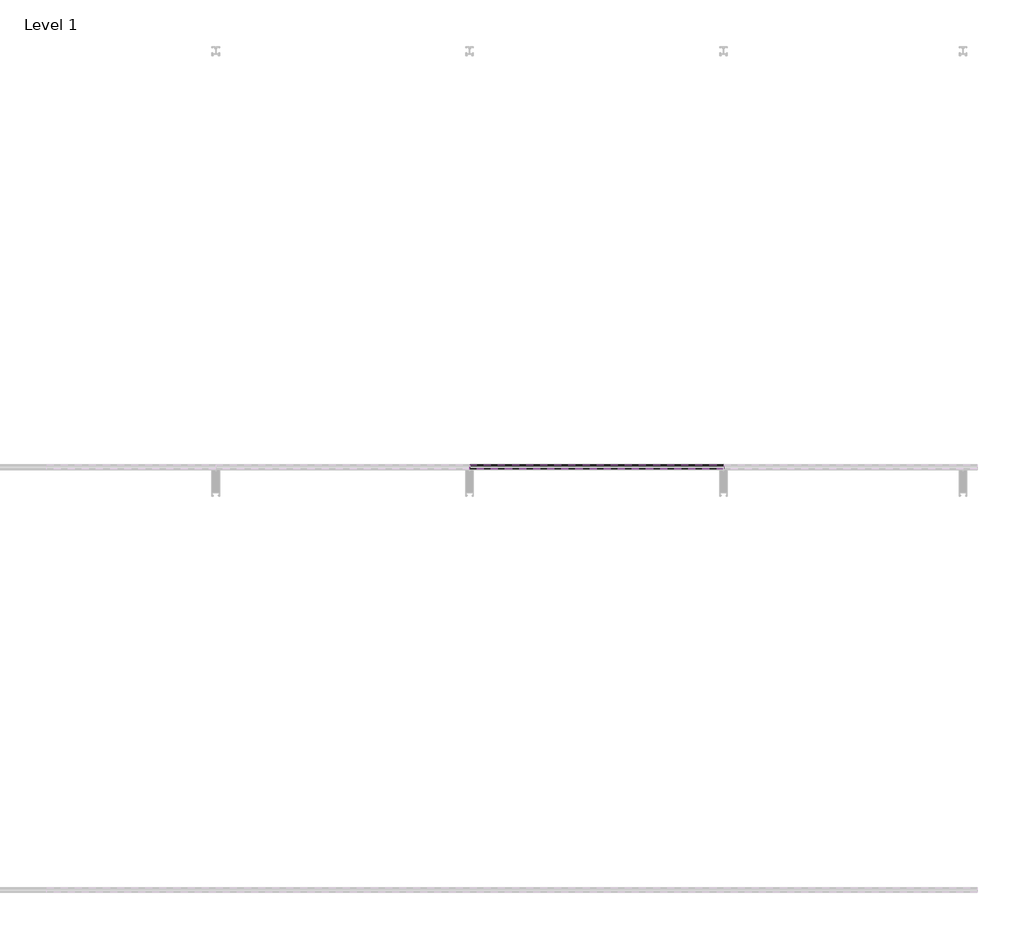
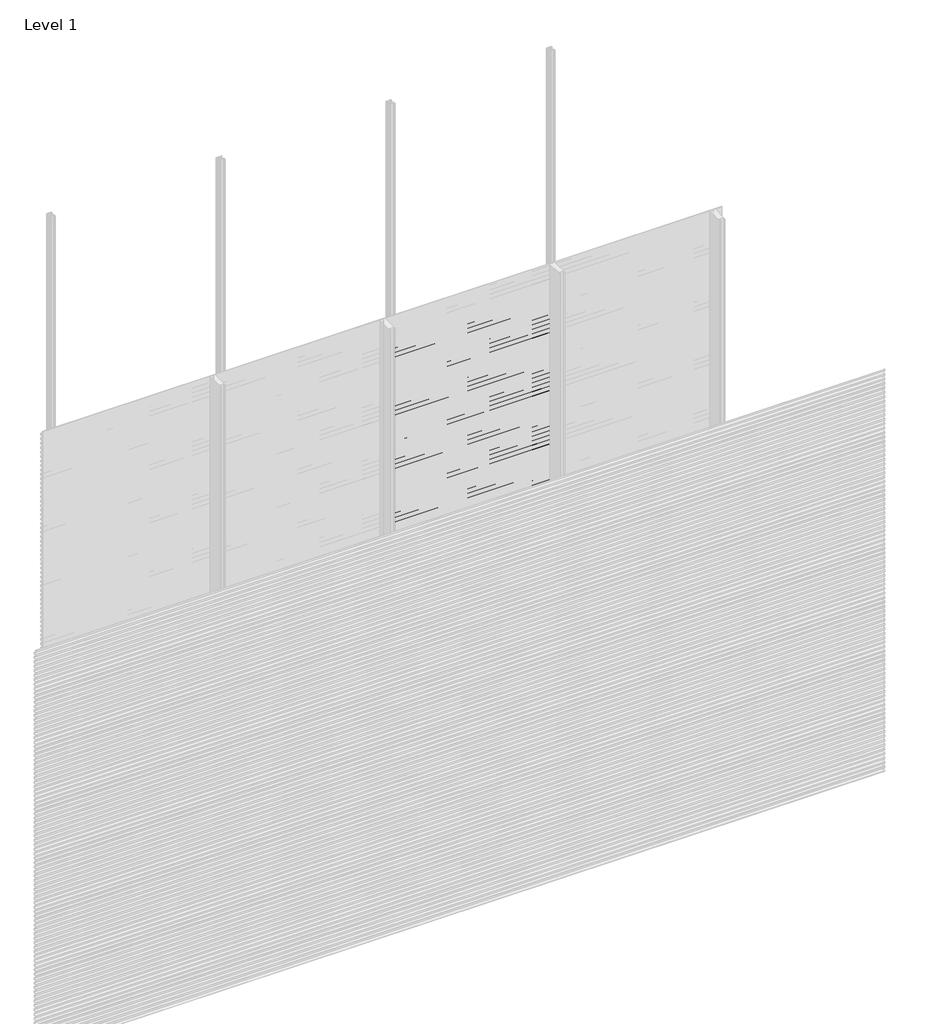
# One storey, part 16 of 77: 72 proxies.
"""IFC4 building model written with IfcOpenShell, lengths in millimetres."""

from ifc_helpers import new_model, si_unit, frame, origin, place, context, project, spatial, polyline, outline, extrude, element, save

model = new_model("IFC4")

# Units and contexts
model_context = context("Model", 3, world=origin())
ifc_project = project(units=[si_unit("LENGTHUNIT", "METRE", prefix="MILLI")], contexts=[model_context])

# Site, building, storey
site = spatial("IfcSite", under=ifc_project)
building = spatial("IfcBuilding", under=site)
storey = spatial("IfcBuildingStorey", under=building, Name="Level 1", Elevation=0.0)

# Proxies
placement = place(None, origin())
element("IfcBuildingElementProxy", 1, Name="Wall Sweeps", at=placement, inside=storey, context=model_context, shape_type="SweptSolid", body=[
    extrude(outline(polyline([(-47978.6, 2806.0359887), (-47998.0, 2817.2366691), (-47998.0, 2830.5), (-47997.0, 2830.5), (-47997.0, 2817.8191057), (-47977.6, 2806.6185105), (-47977.6, 2793.0185105), (-47978.6, 2794.5953129), (-47978.6, 2800.4032062), (-47995.9773817, 2792.3), (-47996.4, 2793.2063078), (-47978.6, 2801.5065841), (-47978.6, 2806.0359887)])), frame((3600.0, 0.0, 0.0), z_axis=(1.0, 0.0, 0.0), x_axis=(0.0, 1.0, 0.0)), (0.0, 0.0, 1.0), 1200.0),
])
element("IfcBuildingElementProxy", 2, Name="Wall Sweeps", at=placement, inside=storey, context=model_context, shape_type="SweptSolid", body=[
    extrude(outline(polyline([(-47978.6, 2772.7359887), (-47998.0, 2783.9366691), (-47998.0, 2797.2), (-47997.0, 2797.2), (-47997.0, 2784.5191057), (-47977.6, 2773.3185105), (-47977.6, 2759.7185105), (-47978.6, 2761.2953129), (-47978.6, 2767.1032062), (-47995.9773817, 2759.0), (-47996.4, 2759.9063078), (-47978.6, 2768.2065841), (-47978.6, 2772.7359887)])), frame((3600.0, 0.0, 0.0), z_axis=(1.0, 0.0, 0.0), x_axis=(0.0, 1.0, 0.0)), (0.0, 0.0, 1.0), 1200.0),
])
element("IfcBuildingElementProxy", 3, Name="Wall Sweeps", at=placement, inside=storey, context=model_context, shape_type="SweptSolid", body=[
    extrude(outline(polyline([(-47978.6, 2739.4359887), (-47998.0, 2750.6366691), (-47998.0, 2763.9), (-47997.0, 2763.9), (-47997.0, 2751.2191057), (-47977.6, 2740.0185105), (-47977.6, 2726.4185105), (-47978.6, 2727.9953129), (-47978.6, 2733.8032062), (-47995.9773817, 2725.7), (-47996.4, 2726.6063078), (-47978.6, 2734.9065841), (-47978.6, 2739.4359887)])), frame((3600.0, 0.0, 0.0), z_axis=(1.0, 0.0, 0.0), x_axis=(0.0, 1.0, 0.0)), (0.0, 0.0, 1.0), 1200.0),
])
element("IfcBuildingElementProxy", 4, Name="Wall Sweeps", at=placement, inside=storey, context=model_context, shape_type="SweptSolid", body=[
    extrude(outline(polyline([(-47978.6, 2706.1359887), (-47998.0, 2717.3366691), (-47998.0, 2730.6), (-47997.0, 2730.6), (-47997.0, 2717.9191057), (-47977.6, 2706.7185105), (-47977.6, 2693.1185105), (-47978.6, 2694.6953129), (-47978.6, 2700.5032062), (-47995.9773817, 2692.4), (-47996.4, 2693.3063078), (-47978.6, 2701.6065841), (-47978.6, 2706.1359887)])), frame((3600.0, 0.0, 0.0), z_axis=(1.0, 0.0, 0.0), x_axis=(0.0, 1.0, 0.0)), (0.0, 0.0, 1.0), 1200.0),
])
element("IfcBuildingElementProxy", 5, Name="Wall Sweeps", at=placement, inside=storey, context=model_context, shape_type="SweptSolid", body=[
    extrude(outline(polyline([(-47978.6, 2672.8359887), (-47998.0, 2684.0366691), (-47998.0, 2697.3), (-47997.0, 2697.3), (-47997.0, 2684.6191057), (-47977.6, 2673.4185105), (-47977.6, 2659.8185105), (-47978.6, 2661.3953129), (-47978.6, 2667.2032062), (-47995.9773817, 2659.1), (-47996.4, 2660.0063078), (-47978.6, 2668.3065841), (-47978.6, 2672.8359887)])), frame((3600.0, 0.0, 0.0), z_axis=(1.0, 0.0, 0.0), x_axis=(0.0, 1.0, 0.0)), (0.0, 0.0, 1.0), 1200.0),
])
element("IfcBuildingElementProxy", 6, Name="Wall Sweeps", at=placement, inside=storey, context=model_context, shape_type="SweptSolid", body=[
    extrude(outline(polyline([(-47978.6, 2639.5359887), (-47998.0, 2650.7366691), (-47998.0, 2664.0), (-47997.0, 2664.0), (-47997.0, 2651.3191057), (-47977.6, 2640.1185105), (-47977.6, 2626.5185105), (-47978.6, 2628.0953129), (-47978.6, 2633.9032062), (-47995.9773817, 2625.8), (-47996.4, 2626.7063078), (-47978.6, 2635.0065841), (-47978.6, 2639.5359887)])), frame((3600.0, 0.0, 0.0), z_axis=(1.0, 0.0, 0.0), x_axis=(0.0, 1.0, 0.0)), (0.0, 0.0, 1.0), 1200.0),
])
element("IfcBuildingElementProxy", 7, Name="Wall Sweeps", at=placement, inside=storey, context=model_context, shape_type="SweptSolid", body=[
    extrude(outline(polyline([(-47978.6, 2606.2359887), (-47998.0, 2617.4366691), (-47998.0, 2630.7), (-47997.0, 2630.7), (-47997.0, 2618.0191057), (-47977.6, 2606.8185105), (-47977.6, 2593.2185105), (-47978.6, 2594.7953129), (-47978.6, 2600.6032062), (-47995.9773817, 2592.5), (-47996.4, 2593.4063078), (-47978.6, 2601.7065841), (-47978.6, 2606.2359887)])), frame((3600.0, 0.0, 0.0), z_axis=(1.0, 0.0, 0.0), x_axis=(0.0, 1.0, 0.0)), (0.0, 0.0, 1.0), 1200.0),
])
element("IfcBuildingElementProxy", 8, Name="Wall Sweeps", at=placement, inside=storey, context=model_context, shape_type="SweptSolid", body=[
    extrude(outline(polyline([(-47978.6, 2572.9359887), (-47998.0, 2584.1366691), (-47998.0, 2597.4), (-47997.0, 2597.4), (-47997.0, 2584.7191057), (-47977.6, 2573.5185105), (-47977.6, 2559.9185105), (-47978.6, 2561.4953129), (-47978.6, 2567.3032062), (-47995.9773817, 2559.2), (-47996.4, 2560.1063078), (-47978.6, 2568.4065841), (-47978.6, 2572.9359887)])), frame((3600.0, 0.0, 0.0), z_axis=(1.0, 0.0, 0.0), x_axis=(0.0, 1.0, 0.0)), (0.0, 0.0, 1.0), 1200.0),
])
element("IfcBuildingElementProxy", 9, Name="Wall Sweeps", at=placement, inside=storey, context=model_context, shape_type="SweptSolid", body=[
    extrude(outline(polyline([(-47978.6, 2539.6359887), (-47998.0, 2550.8366691), (-47998.0, 2564.1), (-47997.0, 2564.1), (-47997.0, 2551.4191057), (-47977.6, 2540.2185105), (-47977.6, 2526.6185105), (-47978.6, 2528.1953129), (-47978.6, 2534.0032062), (-47995.9773817, 2525.9), (-47996.4, 2526.8063078), (-47978.6, 2535.1065841), (-47978.6, 2539.6359887)])), frame((3600.0, 0.0, 0.0), z_axis=(1.0, 0.0, 0.0), x_axis=(0.0, 1.0, 0.0)), (0.0, 0.0, 1.0), 1200.0),
])
element("IfcBuildingElementProxy", 10, Name="Wall Sweeps", at=placement, inside=storey, context=model_context, shape_type="SweptSolid", body=[
    extrude(outline(polyline([(-47978.6, 2506.3359887), (-47998.0, 2517.5366691), (-47998.0, 2530.8), (-47997.0, 2530.8), (-47997.0, 2518.1191057), (-47977.6, 2506.9185105), (-47977.6, 2493.3185105), (-47978.6, 2494.8953129), (-47978.6, 2500.7032062), (-47995.9773817, 2492.6), (-47996.4, 2493.5063078), (-47978.6, 2501.8065841), (-47978.6, 2506.3359887)])), frame((3600.0, 0.0, 0.0), z_axis=(1.0, 0.0, 0.0), x_axis=(0.0, 1.0, 0.0)), (0.0, 0.0, 1.0), 1200.0),
])
element("IfcBuildingElementProxy", 11, Name="Wall Sweeps", at=placement, inside=storey, context=model_context, shape_type="SweptSolid", body=[
    extrude(outline(polyline([(-47978.6, 2473.0359887), (-47998.0, 2484.2366691), (-47998.0, 2497.5), (-47997.0, 2497.5), (-47997.0, 2484.8191057), (-47977.6, 2473.6185105), (-47977.6, 2460.0185105), (-47978.6, 2461.5953129), (-47978.6, 2467.4032062), (-47995.9773817, 2459.3), (-47996.4, 2460.2063078), (-47978.6, 2468.5065841), (-47978.6, 2473.0359887)])), frame((3600.0, 0.0, 0.0), z_axis=(1.0, 0.0, 0.0), x_axis=(0.0, 1.0, 0.0)), (0.0, 0.0, 1.0), 1200.0),
])
element("IfcBuildingElementProxy", 12, Name="Wall Sweeps", at=placement, inside=storey, context=model_context, shape_type="SweptSolid", body=[
    extrude(outline(polyline([(-47978.6, 2439.7359887), (-47998.0, 2450.9366691), (-47998.0, 2464.2), (-47997.0, 2464.2), (-47997.0, 2451.5191057), (-47977.6, 2440.3185105), (-47977.6, 2426.7185105), (-47978.6, 2428.2953129), (-47978.6, 2434.1032062), (-47995.9773817, 2426.0), (-47996.4, 2426.9063078), (-47978.6, 2435.2065841), (-47978.6, 2439.7359887)])), frame((3600.0, 0.0, 0.0), z_axis=(1.0, 0.0, 0.0), x_axis=(0.0, 1.0, 0.0)), (0.0, 0.0, 1.0), 1200.0),
])
element("IfcBuildingElementProxy", 13, Name="Wall Sweeps", at=placement, inside=storey, context=model_context, shape_type="SweptSolid", body=[
    extrude(outline(polyline([(-47978.6, 2406.4359887), (-47998.0, 2417.6366691), (-47998.0, 2430.9), (-47997.0, 2430.9), (-47997.0, 2418.2191057), (-47977.6, 2407.0185105), (-47977.6, 2393.4185105), (-47978.6, 2394.9953129), (-47978.6, 2400.8032062), (-47995.9773817, 2392.7), (-47996.4, 2393.6063078), (-47978.6, 2401.9065841), (-47978.6, 2406.4359887)])), frame((3600.0, 0.0, 0.0), z_axis=(1.0, 0.0, 0.0), x_axis=(0.0, 1.0, 0.0)), (0.0, 0.0, 1.0), 1200.0),
])
element("IfcBuildingElementProxy", 14, Name="Wall Sweeps", at=placement, inside=storey, context=model_context, shape_type="SweptSolid", body=[
    extrude(outline(polyline([(-47978.6, 2373.1359887), (-47998.0, 2384.3366691), (-47998.0, 2397.6), (-47997.0, 2397.6), (-47997.0, 2384.9191057), (-47977.6, 2373.7185105), (-47977.6, 2360.1185105), (-47978.6, 2361.6953129), (-47978.6, 2367.5032062), (-47995.9773817, 2359.4), (-47996.4, 2360.3063078), (-47978.6, 2368.6065841), (-47978.6, 2373.1359887)])), frame((3600.0, 0.0, 0.0), z_axis=(1.0, 0.0, 0.0), x_axis=(0.0, 1.0, 0.0)), (0.0, 0.0, 1.0), 1200.0),
])
element("IfcBuildingElementProxy", 15, Name="Wall Sweeps", at=placement, inside=storey, context=model_context, shape_type="SweptSolid", body=[
    extrude(outline(polyline([(-47978.6, 2339.8359887), (-47998.0, 2351.0366691), (-47998.0, 2364.3), (-47997.0, 2364.3), (-47997.0, 2351.6191057), (-47977.6, 2340.4185105), (-47977.6, 2326.8185105), (-47978.6, 2328.3953129), (-47978.6, 2334.2032062), (-47995.9773817, 2326.1), (-47996.4, 2327.0063078), (-47978.6, 2335.3065841), (-47978.6, 2339.8359887)])), frame((3600.0, 0.0, 0.0), z_axis=(1.0, 0.0, 0.0), x_axis=(0.0, 1.0, 0.0)), (0.0, 0.0, 1.0), 1200.0),
])
element("IfcBuildingElementProxy", 16, Name="Wall Sweeps", at=placement, inside=storey, context=model_context, shape_type="SweptSolid", body=[
    extrude(outline(polyline([(-47978.6, 2306.5359887), (-47998.0, 2317.7366691), (-47998.0, 2331.0), (-47997.0, 2331.0), (-47997.0, 2318.3191057), (-47977.6, 2307.1185105), (-47977.6, 2293.5185105), (-47978.6, 2295.0953129), (-47978.6, 2300.9032062), (-47995.9773817, 2292.8), (-47996.4, 2293.7063078), (-47978.6, 2302.0065841), (-47978.6, 2306.5359887)])), frame((3600.0, 0.0, 0.0), z_axis=(1.0, 0.0, 0.0), x_axis=(0.0, 1.0, 0.0)), (0.0, 0.0, 1.0), 1200.0),
])
element("IfcBuildingElementProxy", 17, Name="Wall Sweeps", at=placement, inside=storey, context=model_context, shape_type="SweptSolid", body=[
    extrude(outline(polyline([(-47978.6, 2273.2359887), (-47998.0, 2284.4366691), (-47998.0, 2297.7), (-47997.0, 2297.7), (-47997.0, 2285.0191057), (-47977.6, 2273.8185105), (-47977.6, 2260.2185105), (-47978.6, 2261.7953129), (-47978.6, 2267.6032062), (-47995.9773817, 2259.5), (-47996.4, 2260.4063078), (-47978.6, 2268.7065841), (-47978.6, 2273.2359887)])), frame((3600.0, 0.0, 0.0), z_axis=(1.0, 0.0, 0.0), x_axis=(0.0, 1.0, 0.0)), (0.0, 0.0, 1.0), 1200.0),
])
element("IfcBuildingElementProxy", 18, Name="Wall Sweeps", at=placement, inside=storey, context=model_context, shape_type="SweptSolid", body=[
    extrude(outline(polyline([(-47978.6, 2239.9359887), (-47998.0, 2251.1366691), (-47998.0, 2264.4), (-47997.0, 2264.4), (-47997.0, 2251.7191057), (-47977.6, 2240.5185105), (-47977.6, 2226.9185105), (-47978.6, 2228.4953129), (-47978.6, 2234.3032062), (-47995.9773817, 2226.2), (-47996.4, 2227.1063078), (-47978.6, 2235.4065841), (-47978.6, 2239.9359887)])), frame((3600.0, 0.0, 0.0), z_axis=(1.0, 0.0, 0.0), x_axis=(0.0, 1.0, 0.0)), (0.0, 0.0, 1.0), 1200.0),
])
element("IfcBuildingElementProxy", 19, Name="Wall Sweeps", at=placement, inside=storey, context=model_context, shape_type="SweptSolid", body=[
    extrude(outline(polyline([(-47978.6, 2206.6359887), (-47998.0, 2217.8366691), (-47998.0, 2231.1), (-47997.0, 2231.1), (-47997.0, 2218.4191057), (-47977.6, 2207.2185105), (-47977.6, 2193.6185105), (-47978.6, 2195.1953129), (-47978.6, 2201.0032062), (-47995.9773817, 2192.9), (-47996.4, 2193.8063078), (-47978.6, 2202.1065841), (-47978.6, 2206.6359887)])), frame((3600.0, 0.0, 0.0), z_axis=(1.0, 0.0, 0.0), x_axis=(0.0, 1.0, 0.0)), (0.0, 0.0, 1.0), 1200.0),
])
element("IfcBuildingElementProxy", 20, Name="Wall Sweeps", at=placement, inside=storey, context=model_context, shape_type="SweptSolid", body=[
    extrude(outline(polyline([(-47978.6, 2173.3359887), (-47998.0, 2184.5366691), (-47998.0, 2197.8), (-47997.0, 2197.8), (-47997.0, 2185.1191057), (-47977.6, 2173.9185105), (-47977.6, 2160.3185105), (-47978.6, 2161.8953129), (-47978.6, 2167.7032062), (-47995.9773817, 2159.6), (-47996.4, 2160.5063078), (-47978.6, 2168.8065841), (-47978.6, 2173.3359887)])), frame((3600.0, 0.0, 0.0), z_axis=(1.0, 0.0, 0.0), x_axis=(0.0, 1.0, 0.0)), (0.0, 0.0, 1.0), 1200.0),
])
element("IfcBuildingElementProxy", 21, Name="Wall Sweeps", at=placement, inside=storey, context=model_context, shape_type="SweptSolid", body=[
    extrude(outline(polyline([(-47978.6, 2140.0359887), (-47998.0, 2151.2366691), (-47998.0, 2164.5), (-47997.0, 2164.5), (-47997.0, 2151.8191057), (-47977.6, 2140.6185105), (-47977.6, 2127.0185105), (-47978.6, 2128.5953129), (-47978.6, 2134.4032062), (-47995.9773817, 2126.3), (-47996.4, 2127.2063078), (-47978.6, 2135.5065841), (-47978.6, 2140.0359887)])), frame((3600.0, 0.0, 0.0), z_axis=(1.0, 0.0, 0.0), x_axis=(0.0, 1.0, 0.0)), (0.0, 0.0, 1.0), 1200.0),
])
element("IfcBuildingElementProxy", 22, Name="Wall Sweeps", at=placement, inside=storey, context=model_context, shape_type="SweptSolid", body=[
    extrude(outline(polyline([(-47978.6, 2106.7359887), (-47998.0, 2117.9366691), (-47998.0, 2131.2), (-47997.0, 2131.2), (-47997.0, 2118.5191057), (-47977.6, 2107.3185105), (-47977.6, 2093.7185105), (-47978.6, 2095.2953129), (-47978.6, 2101.1032062), (-47995.9773817, 2093.0), (-47996.4, 2093.9063078), (-47978.6, 2102.2065841), (-47978.6, 2106.7359887)])), frame((3600.0, 0.0, 0.0), z_axis=(1.0, 0.0, 0.0), x_axis=(0.0, 1.0, 0.0)), (0.0, 0.0, 1.0), 1200.0),
])
element("IfcBuildingElementProxy", 23, Name="Wall Sweeps", at=placement, inside=storey, context=model_context, shape_type="SweptSolid", body=[
    extrude(outline(polyline([(-47978.6, 2073.4359887), (-47998.0, 2084.6366691), (-47998.0, 2097.9), (-47997.0, 2097.9), (-47997.0, 2085.2191057), (-47977.6, 2074.0185105), (-47977.6, 2060.4185105), (-47978.6, 2061.9953129), (-47978.6, 2067.8032062), (-47995.9773817, 2059.7), (-47996.4, 2060.6063078), (-47978.6, 2068.9065841), (-47978.6, 2073.4359887)])), frame((3600.0, 0.0, 0.0), z_axis=(1.0, 0.0, 0.0), x_axis=(0.0, 1.0, 0.0)), (0.0, 0.0, 1.0), 1200.0),
])
element("IfcBuildingElementProxy", 24, Name="Wall Sweeps", at=placement, inside=storey, context=model_context, shape_type="SweptSolid", body=[
    extrude(outline(polyline([(-47978.6, 2040.1359887), (-47998.0, 2051.3366691), (-47998.0, 2064.6), (-47997.0, 2064.6), (-47997.0, 2051.9191057), (-47977.6, 2040.7185105), (-47977.6, 2027.1185105), (-47978.6, 2028.6953129), (-47978.6, 2034.5032062), (-47995.9773817, 2026.4), (-47996.4, 2027.3063078), (-47978.6, 2035.6065841), (-47978.6, 2040.1359887)])), frame((3600.0, 0.0, 0.0), z_axis=(1.0, 0.0, 0.0), x_axis=(0.0, 1.0, 0.0)), (0.0, 0.0, 1.0), 1200.0),
])
element("IfcBuildingElementProxy", 25, Name="Wall Sweeps", at=placement, inside=storey, context=model_context, shape_type="SweptSolid", body=[
    extrude(outline(polyline([(-47978.6, 2006.8359887), (-47998.0, 2018.0366691), (-47998.0, 2031.3), (-47997.0, 2031.3), (-47997.0, 2018.6191057), (-47977.6, 2007.4185105), (-47977.6, 1993.8185105), (-47978.6, 1995.3953129), (-47978.6, 2001.2032062), (-47995.9773817, 1993.1), (-47996.4, 1994.0063078), (-47978.6, 2002.3065841), (-47978.6, 2006.8359887)])), frame((3600.0, 0.0, 0.0), z_axis=(1.0, 0.0, 0.0), x_axis=(0.0, 1.0, 0.0)), (0.0, 0.0, 1.0), 1200.0),
])
element("IfcBuildingElementProxy", 26, Name="Wall Sweeps", at=placement, inside=storey, context=model_context, shape_type="SweptSolid", body=[
    extrude(outline(polyline([(-47978.6, 1973.5359887), (-47998.0, 1984.7366691), (-47998.0, 1998.0), (-47997.0, 1998.0), (-47997.0, 1985.3191057), (-47977.6, 1974.1185105), (-47977.6, 1960.5185105), (-47978.6, 1962.0953129), (-47978.6, 1967.9032062), (-47995.9773817, 1959.8), (-47996.4, 1960.7063078), (-47978.6, 1969.0065841), (-47978.6, 1973.5359887)])), frame((3600.0, 0.0, 0.0), z_axis=(1.0, 0.0, 0.0), x_axis=(0.0, 1.0, 0.0)), (0.0, 0.0, 1.0), 1200.0),
])
element("IfcBuildingElementProxy", 27, Name="Wall Sweeps", at=placement, inside=storey, context=model_context, shape_type="SweptSolid", body=[
    extrude(outline(polyline([(-47978.6, 1940.2359887), (-47998.0, 1951.4366691), (-47998.0, 1964.7), (-47997.0, 1964.7), (-47997.0, 1952.0191057), (-47977.6, 1940.8185105), (-47977.6, 1927.2185105), (-47978.6, 1928.7953129), (-47978.6, 1934.6032062), (-47995.9773817, 1926.5), (-47996.4, 1927.4063078), (-47978.6, 1935.7065841), (-47978.6, 1940.2359887)])), frame((3600.0, 0.0, 0.0), z_axis=(1.0, 0.0, 0.0), x_axis=(0.0, 1.0, 0.0)), (0.0, 0.0, 1.0), 1200.0),
])
element("IfcBuildingElementProxy", 28, Name="Wall Sweeps", at=placement, inside=storey, context=model_context, shape_type="SweptSolid", body=[
    extrude(outline(polyline([(-47978.6, 1906.9359887), (-47998.0, 1918.1366691), (-47998.0, 1931.4), (-47997.0, 1931.4), (-47997.0, 1918.7191057), (-47977.6, 1907.5185105), (-47977.6, 1893.9185105), (-47978.6, 1895.4953129), (-47978.6, 1901.3032062), (-47995.9773817, 1893.2), (-47996.4, 1894.1063078), (-47978.6, 1902.4065841), (-47978.6, 1906.9359887)])), frame((3600.0, 0.0, 0.0), z_axis=(1.0, 0.0, 0.0), x_axis=(0.0, 1.0, 0.0)), (0.0, 0.0, 1.0), 1200.0),
])
element("IfcBuildingElementProxy", 29, Name="Wall Sweeps", at=placement, inside=storey, context=model_context, shape_type="SweptSolid", body=[
    extrude(outline(polyline([(-47978.6, 1873.6359887), (-47998.0, 1884.8366691), (-47998.0, 1898.1), (-47997.0, 1898.1), (-47997.0, 1885.4191057), (-47977.6, 1874.2185105), (-47977.6, 1860.6185105), (-47978.6, 1862.1953129), (-47978.6, 1868.0032062), (-47995.9773817, 1859.9), (-47996.4, 1860.8063078), (-47978.6, 1869.1065841), (-47978.6, 1873.6359887)])), frame((3600.0, 0.0, 0.0), z_axis=(1.0, 0.0, 0.0), x_axis=(0.0, 1.0, 0.0)), (0.0, 0.0, 1.0), 1200.0),
])
element("IfcBuildingElementProxy", 30, Name="Wall Sweeps", at=placement, inside=storey, context=model_context, shape_type="SweptSolid", body=[
    extrude(outline(polyline([(-47978.6, 1840.3359887), (-47998.0, 1851.5366691), (-47998.0, 1864.8), (-47997.0, 1864.8), (-47997.0, 1852.1191057), (-47977.6, 1840.9185105), (-47977.6, 1827.3185105), (-47978.6, 1828.8953129), (-47978.6, 1834.7032062), (-47995.9773817, 1826.6), (-47996.4, 1827.5063078), (-47978.6, 1835.8065841), (-47978.6, 1840.3359887)])), frame((3600.0, 0.0, 0.0), z_axis=(1.0, 0.0, 0.0), x_axis=(0.0, 1.0, 0.0)), (0.0, 0.0, 1.0), 1200.0),
])
element("IfcBuildingElementProxy", 31, Name="Wall Sweeps", at=placement, inside=storey, context=model_context, shape_type="SweptSolid", body=[
    extrude(outline(polyline([(-47978.6, 1807.0359887), (-47998.0, 1818.2366691), (-47998.0, 1831.5), (-47997.0, 1831.5), (-47997.0, 1818.8191057), (-47977.6, 1807.6185105), (-47977.6, 1794.0185105), (-47978.6, 1795.5953129), (-47978.6, 1801.4032062), (-47995.9773817, 1793.3), (-47996.4, 1794.2063078), (-47978.6, 1802.5065841), (-47978.6, 1807.0359887)])), frame((3600.0, 0.0, 0.0), z_axis=(1.0, 0.0, 0.0), x_axis=(0.0, 1.0, 0.0)), (0.0, 0.0, 1.0), 1200.0),
])
element("IfcBuildingElementProxy", 32, Name="Wall Sweeps", at=placement, inside=storey, context=model_context, shape_type="SweptSolid", body=[
    extrude(outline(polyline([(-47978.6, 1773.7359887), (-47998.0, 1784.9366691), (-47998.0, 1798.2), (-47997.0, 1798.2), (-47997.0, 1785.5191057), (-47977.6, 1774.3185105), (-47977.6, 1760.7185105), (-47978.6, 1762.2953129), (-47978.6, 1768.1032062), (-47995.9773817, 1760.0), (-47996.4, 1760.9063078), (-47978.6, 1769.2065841), (-47978.6, 1773.7359887)])), frame((3600.0, 0.0, 0.0), z_axis=(1.0, 0.0, 0.0), x_axis=(0.0, 1.0, 0.0)), (0.0, 0.0, 1.0), 1200.0),
])
element("IfcBuildingElementProxy", 33, Name="Wall Sweeps", at=placement, inside=storey, context=model_context, shape_type="SweptSolid", body=[
    extrude(outline(polyline([(-47978.6, 1740.4359887), (-47998.0, 1751.6366691), (-47998.0, 1764.9), (-47997.0, 1764.9), (-47997.0, 1752.2191057), (-47977.6, 1741.0185105), (-47977.6, 1727.4185105), (-47978.6, 1728.9953129), (-47978.6, 1734.8032062), (-47995.9773817, 1726.7), (-47996.4, 1727.6063078), (-47978.6, 1735.9065841), (-47978.6, 1740.4359887)])), frame((3600.0, 0.0, 0.0), z_axis=(1.0, 0.0, 0.0), x_axis=(0.0, 1.0, 0.0)), (0.0, 0.0, 1.0), 1200.0),
])
element("IfcBuildingElementProxy", 34, Name="Wall Sweeps", at=placement, inside=storey, context=model_context, shape_type="SweptSolid", body=[
    extrude(outline(polyline([(-47978.6, 1707.1359887), (-47998.0, 1718.3366691), (-47998.0, 1731.6), (-47997.0, 1731.6), (-47997.0, 1718.9191057), (-47977.6, 1707.7185105), (-47977.6, 1694.1185105), (-47978.6, 1695.6953129), (-47978.6, 1701.5032062), (-47995.9773817, 1693.4), (-47996.4, 1694.3063078), (-47978.6, 1702.6065841), (-47978.6, 1707.1359887)])), frame((3600.0, 0.0, 0.0), z_axis=(1.0, 0.0, 0.0), x_axis=(0.0, 1.0, 0.0)), (0.0, 0.0, 1.0), 1200.0),
])
element("IfcBuildingElementProxy", 35, Name="Wall Sweeps", at=placement, inside=storey, context=model_context, shape_type="SweptSolid", body=[
    extrude(outline(polyline([(-47978.6, 1673.8359887), (-47998.0, 1685.0366691), (-47998.0, 1698.3), (-47997.0, 1698.3), (-47997.0, 1685.6191057), (-47977.6, 1674.4185105), (-47977.6, 1660.8185105), (-47978.6, 1662.3953129), (-47978.6, 1668.2032062), (-47995.9773817, 1660.1), (-47996.4, 1661.0063078), (-47978.6, 1669.3065841), (-47978.6, 1673.8359887)])), frame((3600.0, 0.0, 0.0), z_axis=(1.0, 0.0, 0.0), x_axis=(0.0, 1.0, 0.0)), (0.0, 0.0, 1.0), 1200.0),
])
element("IfcBuildingElementProxy", 36, Name="Wall Sweeps", at=placement, inside=storey, context=model_context, shape_type="SweptSolid", body=[
    extrude(outline(polyline([(-47978.6, 1640.5359887), (-47998.0, 1651.7366691), (-47998.0, 1665.0), (-47997.0, 1665.0), (-47997.0, 1652.3191057), (-47977.6, 1641.1185105), (-47977.6, 1627.5185105), (-47978.6, 1629.0953129), (-47978.6, 1634.9032062), (-47995.9773817, 1626.8), (-47996.4, 1627.7063078), (-47978.6, 1636.0065841), (-47978.6, 1640.5359887)])), frame((3600.0, 0.0, 0.0), z_axis=(1.0, 0.0, 0.0), x_axis=(0.0, 1.0, 0.0)), (0.0, 0.0, 1.0), 1200.0),
])
element("IfcBuildingElementProxy", 37, Name="Wall Sweeps", at=placement, inside=storey, context=model_context, shape_type="SweptSolid", body=[
    extrude(outline(polyline([(-47978.6, 1607.2359887), (-47998.0, 1618.4366691), (-47998.0, 1631.7), (-47997.0, 1631.7), (-47997.0, 1619.0191057), (-47977.6, 1607.8185105), (-47977.6, 1594.2185105), (-47978.6, 1595.7953129), (-47978.6, 1601.6032062), (-47995.9773817, 1593.5), (-47996.4, 1594.4063078), (-47978.6, 1602.7065841), (-47978.6, 1607.2359887)])), frame((3600.0, 0.0, 0.0), z_axis=(1.0, 0.0, 0.0), x_axis=(0.0, 1.0, 0.0)), (0.0, 0.0, 1.0), 1200.0),
])
element("IfcBuildingElementProxy", 38, Name="Wall Sweeps", at=placement, inside=storey, context=model_context, shape_type="SweptSolid", body=[
    extrude(outline(polyline([(-47978.6, 1573.9359887), (-47998.0, 1585.1366691), (-47998.0, 1598.4), (-47997.0, 1598.4), (-47997.0, 1585.7191057), (-47977.6, 1574.5185105), (-47977.6, 1560.9185105), (-47978.6, 1562.4953129), (-47978.6, 1568.3032062), (-47995.9773817, 1560.2), (-47996.4, 1561.1063078), (-47978.6, 1569.4065841), (-47978.6, 1573.9359887)])), frame((3600.0, 0.0, 0.0), z_axis=(1.0, 0.0, 0.0), x_axis=(0.0, 1.0, 0.0)), (0.0, 0.0, 1.0), 1200.0),
])
element("IfcBuildingElementProxy", 39, Name="Wall Sweeps", at=placement, inside=storey, context=model_context, shape_type="SweptSolid", body=[
    extrude(outline(polyline([(-47978.6, 1540.6359887), (-47998.0, 1551.8366691), (-47998.0, 1565.1), (-47997.0, 1565.1), (-47997.0, 1552.4191057), (-47977.6, 1541.2185105), (-47977.6, 1527.6185105), (-47978.6, 1529.1953129), (-47978.6, 1535.0032062), (-47995.9773817, 1526.9), (-47996.4, 1527.8063078), (-47978.6, 1536.1065841), (-47978.6, 1540.6359887)])), frame((3600.0, 0.0, 0.0), z_axis=(1.0, 0.0, 0.0), x_axis=(0.0, 1.0, 0.0)), (0.0, 0.0, 1.0), 1200.0),
])
element("IfcBuildingElementProxy", 40, Name="Wall Sweeps", at=placement, inside=storey, context=model_context, shape_type="SweptSolid", body=[
    extrude(outline(polyline([(-47978.6, 1507.3359887), (-47998.0, 1518.5366691), (-47998.0, 1531.8), (-47997.0, 1531.8), (-47997.0, 1519.1191057), (-47977.6, 1507.9185105), (-47977.6, 1494.3185105), (-47978.6, 1495.8953129), (-47978.6, 1501.7032062), (-47995.9773817, 1493.6), (-47996.4, 1494.5063078), (-47978.6, 1502.8065841), (-47978.6, 1507.3359887)])), frame((3600.0, 0.0, 0.0), z_axis=(1.0, 0.0, 0.0), x_axis=(0.0, 1.0, 0.0)), (0.0, 0.0, 1.0), 1200.0),
])
element("IfcBuildingElementProxy", 41, Name="Wall Sweeps", at=placement, inside=storey, context=model_context, shape_type="SweptSolid", body=[
    extrude(outline(polyline([(-47978.6, 1474.0359887), (-47998.0, 1485.2366691), (-47998.0, 1498.5), (-47997.0, 1498.5), (-47997.0, 1485.8191057), (-47977.6, 1474.6185105), (-47977.6, 1461.0185105), (-47978.6, 1462.5953129), (-47978.6, 1468.4032062), (-47995.9773817, 1460.3), (-47996.4, 1461.2063078), (-47978.6, 1469.5065841), (-47978.6, 1474.0359887)])), frame((3600.0, 0.0, 0.0), z_axis=(1.0, 0.0, 0.0), x_axis=(0.0, 1.0, 0.0)), (0.0, 0.0, 1.0), 1200.0),
])
element("IfcBuildingElementProxy", 42, Name="Wall Sweeps", at=placement, inside=storey, context=model_context, shape_type="SweptSolid", body=[
    extrude(outline(polyline([(-47978.6, 1440.7359887), (-47998.0, 1451.9366691), (-47998.0, 1465.2), (-47997.0, 1465.2), (-47997.0, 1452.5191057), (-47977.6, 1441.3185105), (-47977.6, 1427.7185105), (-47978.6, 1429.2953129), (-47978.6, 1435.1032062), (-47995.9773817, 1427.0), (-47996.4, 1427.9063078), (-47978.6, 1436.2065841), (-47978.6, 1440.7359887)])), frame((3600.0, 0.0, 0.0), z_axis=(1.0, 0.0, 0.0), x_axis=(0.0, 1.0, 0.0)), (0.0, 0.0, 1.0), 1200.0),
])
element("IfcBuildingElementProxy", 43, Name="Wall Sweeps", at=placement, inside=storey, context=model_context, shape_type="SweptSolid", body=[
    extrude(outline(polyline([(-47978.6, 1407.4359887), (-47998.0, 1418.6366691), (-47998.0, 1431.9), (-47997.0, 1431.9), (-47997.0, 1419.2191057), (-47977.6, 1408.0185105), (-47977.6, 1394.4185105), (-47978.6, 1395.9953129), (-47978.6, 1401.8032062), (-47995.9773817, 1393.7), (-47996.4, 1394.6063078), (-47978.6, 1402.9065841), (-47978.6, 1407.4359887)])), frame((3600.0, 0.0, 0.0), z_axis=(1.0, 0.0, 0.0), x_axis=(0.0, 1.0, 0.0)), (0.0, 0.0, 1.0), 1200.0),
])
element("IfcBuildingElementProxy", 44, Name="Wall Sweeps", at=placement, inside=storey, context=model_context, shape_type="SweptSolid", body=[
    extrude(outline(polyline([(-47978.6, 1374.1359887), (-47998.0, 1385.3366691), (-47998.0, 1398.6), (-47997.0, 1398.6), (-47997.0, 1385.9191057), (-47977.6, 1374.7185105), (-47977.6, 1361.1185105), (-47978.6, 1362.6953129), (-47978.6, 1368.5032062), (-47995.9773817, 1360.4), (-47996.4, 1361.3063078), (-47978.6, 1369.6065841), (-47978.6, 1374.1359887)])), frame((3600.0, 0.0, 0.0), z_axis=(1.0, 0.0, 0.0), x_axis=(0.0, 1.0, 0.0)), (0.0, 0.0, 1.0), 1200.0),
])
element("IfcBuildingElementProxy", 45, Name="Wall Sweeps", at=placement, inside=storey, context=model_context, shape_type="SweptSolid", body=[
    extrude(outline(polyline([(-47978.6, 1340.8359887), (-47998.0, 1352.0366691), (-47998.0, 1365.3), (-47997.0, 1365.3), (-47997.0, 1352.6191057), (-47977.6, 1341.4185105), (-47977.6, 1327.8185105), (-47978.6, 1329.3953129), (-47978.6, 1335.2032062), (-47995.9773817, 1327.1), (-47996.4, 1328.0063078), (-47978.6, 1336.3065841), (-47978.6, 1340.8359887)])), frame((3600.0, 0.0, 0.0), z_axis=(1.0, 0.0, 0.0), x_axis=(0.0, 1.0, 0.0)), (0.0, 0.0, 1.0), 1200.0),
])
element("IfcBuildingElementProxy", 46, Name="Wall Sweeps", at=placement, inside=storey, context=model_context, shape_type="SweptSolid", body=[
    extrude(outline(polyline([(-47978.6, 1307.5359887), (-47998.0, 1318.7366691), (-47998.0, 1332.0), (-47997.0, 1332.0), (-47997.0, 1319.3191057), (-47977.6, 1308.1185105), (-47977.6, 1294.5185105), (-47978.6, 1296.0953129), (-47978.6, 1301.9032062), (-47995.9773817, 1293.8), (-47996.4, 1294.7063078), (-47978.6, 1303.0065841), (-47978.6, 1307.5359887)])), frame((3600.0, 0.0, 0.0), z_axis=(1.0, 0.0, 0.0), x_axis=(0.0, 1.0, 0.0)), (0.0, 0.0, 1.0), 1200.0),
])
element("IfcBuildingElementProxy", 47, Name="Wall Sweeps", at=placement, inside=storey, context=model_context, shape_type="SweptSolid", body=[
    extrude(outline(polyline([(-47978.6, 1274.2359887), (-47998.0, 1285.4366691), (-47998.0, 1298.7), (-47997.0, 1298.7), (-47997.0, 1286.0191057), (-47977.6, 1274.8185105), (-47977.6, 1261.2185105), (-47978.6, 1262.7953129), (-47978.6, 1268.6032062), (-47995.9773817, 1260.5), (-47996.4, 1261.4063078), (-47978.6, 1269.7065841), (-47978.6, 1274.2359887)])), frame((3600.0, 0.0, 0.0), z_axis=(1.0, 0.0, 0.0), x_axis=(0.0, 1.0, 0.0)), (0.0, 0.0, 1.0), 1200.0),
])
element("IfcBuildingElementProxy", 48, Name="Wall Sweeps", at=placement, inside=storey, context=model_context, shape_type="SweptSolid", body=[
    extrude(outline(polyline([(-47978.6, 1240.9359887), (-47998.0, 1252.1366691), (-47998.0, 1265.4), (-47997.0, 1265.4), (-47997.0, 1252.7191057), (-47977.6, 1241.5185105), (-47977.6, 1227.9185105), (-47978.6, 1229.4953129), (-47978.6, 1235.3032062), (-47995.9773817, 1227.2), (-47996.4, 1228.1063078), (-47978.6, 1236.4065841), (-47978.6, 1240.9359887)])), frame((3600.0, 0.0, 0.0), z_axis=(1.0, 0.0, 0.0), x_axis=(0.0, 1.0, 0.0)), (0.0, 0.0, 1.0), 1200.0),
])
element("IfcBuildingElementProxy", 49, Name="Wall Sweeps", at=placement, inside=storey, context=model_context, shape_type="SweptSolid", body=[
    extrude(outline(polyline([(-47978.6, 1207.6359887), (-47998.0, 1218.8366691), (-47998.0, 1232.1), (-47997.0, 1232.1), (-47997.0, 1219.4191057), (-47977.6, 1208.2185105), (-47977.6, 1194.6185105), (-47978.6, 1196.1953129), (-47978.6, 1202.0032062), (-47995.9773817, 1193.9), (-47996.4, 1194.8063078), (-47978.6, 1203.1065841), (-47978.6, 1207.6359887)])), frame((3600.0, 0.0, 0.0), z_axis=(1.0, 0.0, 0.0), x_axis=(0.0, 1.0, 0.0)), (0.0, 0.0, 1.0), 1200.0),
])
element("IfcBuildingElementProxy", 50, Name="Wall Sweeps", at=placement, inside=storey, context=model_context, shape_type="SweptSolid", body=[
    extrude(outline(polyline([(-47978.6, 1174.3359887), (-47998.0, 1185.5366691), (-47998.0, 1198.8), (-47997.0, 1198.8), (-47997.0, 1186.1191057), (-47977.6, 1174.9185105), (-47977.6, 1161.3185105), (-47978.6, 1162.8953129), (-47978.6, 1168.7032062), (-47995.9773817, 1160.6), (-47996.4, 1161.5063078), (-47978.6, 1169.8065841), (-47978.6, 1174.3359887)])), frame((3600.0, 0.0, 0.0), z_axis=(1.0, 0.0, 0.0), x_axis=(0.0, 1.0, 0.0)), (0.0, 0.0, 1.0), 1200.0),
])
element("IfcBuildingElementProxy", 51, Name="Wall Sweeps", at=placement, inside=storey, context=model_context, shape_type="SweptSolid", body=[
    extrude(outline(polyline([(-47978.6, 1141.0359887), (-47998.0, 1152.2366691), (-47998.0, 1165.5), (-47997.0, 1165.5), (-47997.0, 1152.8191057), (-47977.6, 1141.6185105), (-47977.6, 1128.0185105), (-47978.6, 1129.5953129), (-47978.6, 1135.4032062), (-47995.9773817, 1127.3), (-47996.4, 1128.2063078), (-47978.6, 1136.5065841), (-47978.6, 1141.0359887)])), frame((3600.0, 0.0, 0.0), z_axis=(1.0, 0.0, 0.0), x_axis=(0.0, 1.0, 0.0)), (0.0, 0.0, 1.0), 1200.0),
])
element("IfcBuildingElementProxy", 52, Name="Wall Sweeps", at=placement, inside=storey, context=model_context, shape_type="SweptSolid", body=[
    extrude(outline(polyline([(-47978.6, 1107.7359887), (-47998.0, 1118.9366691), (-47998.0, 1132.2), (-47997.0, 1132.2), (-47997.0, 1119.5191057), (-47977.6, 1108.3185105), (-47977.6, 1094.7185105), (-47978.6, 1096.2953129), (-47978.6, 1102.1032062), (-47995.9773817, 1094.0), (-47996.4, 1094.9063078), (-47978.6, 1103.2065841), (-47978.6, 1107.7359887)])), frame((3600.0, 0.0, 0.0), z_axis=(1.0, 0.0, 0.0), x_axis=(0.0, 1.0, 0.0)), (0.0, 0.0, 1.0), 1200.0),
])
element("IfcBuildingElementProxy", 53, Name="Wall Sweeps", at=placement, inside=storey, context=model_context, shape_type="SweptSolid", body=[
    extrude(outline(polyline([(-47978.6, 1074.4359887), (-47998.0, 1085.6366691), (-47998.0, 1098.9), (-47997.0, 1098.9), (-47997.0, 1086.2191057), (-47977.6, 1075.0185105), (-47977.6, 1061.4185105), (-47978.6, 1062.9953129), (-47978.6, 1068.8032062), (-47995.9773817, 1060.7), (-47996.4, 1061.6063078), (-47978.6, 1069.9065841), (-47978.6, 1074.4359887)])), frame((3600.0, 0.0, 0.0), z_axis=(1.0, 0.0, 0.0), x_axis=(0.0, 1.0, 0.0)), (0.0, 0.0, 1.0), 1200.0),
])
element("IfcBuildingElementProxy", 54, Name="Wall Sweeps", at=placement, inside=storey, context=model_context, shape_type="SweptSolid", body=[
    extrude(outline(polyline([(-47978.6, 1041.1359887), (-47998.0, 1052.3366691), (-47998.0, 1065.6), (-47997.0, 1065.6), (-47997.0, 1052.9191057), (-47977.6, 1041.7185105), (-47977.6, 1028.1185105), (-47978.6, 1029.6953129), (-47978.6, 1035.5032062), (-47995.9773817, 1027.4), (-47996.4, 1028.3063078), (-47978.6, 1036.6065841), (-47978.6, 1041.1359887)])), frame((3600.0, 0.0, 0.0), z_axis=(1.0, 0.0, 0.0), x_axis=(0.0, 1.0, 0.0)), (0.0, 0.0, 1.0), 1200.0),
])
element("IfcBuildingElementProxy", 55, Name="Wall Sweeps", at=placement, inside=storey, context=model_context, shape_type="SweptSolid", body=[
    extrude(outline(polyline([(-47978.6, 1007.8359887), (-47998.0, 1019.0366691), (-47998.0, 1032.3), (-47997.0, 1032.3), (-47997.0, 1019.6191057), (-47977.6, 1008.4185105), (-47977.6, 994.8185105), (-47978.6, 996.3953129), (-47978.6, 1002.2032062), (-47995.9773817, 994.1), (-47996.4, 995.0063078), (-47978.6, 1003.3065841), (-47978.6, 1007.8359887)])), frame((3600.0, 0.0, 0.0), z_axis=(1.0, 0.0, 0.0), x_axis=(0.0, 1.0, 0.0)), (0.0, 0.0, 1.0), 1200.0),
])
element("IfcBuildingElementProxy", 56, Name="Wall Sweeps", at=placement, inside=storey, context=model_context, shape_type="SweptSolid", body=[
    extrude(outline(polyline([(-47978.6, 974.5359887), (-47998.0, 985.7366691), (-47998.0, 999.0), (-47997.0, 999.0), (-47997.0, 986.3191057), (-47977.6, 975.1185105), (-47977.6, 961.5185105), (-47978.6, 963.0953129), (-47978.6, 968.9032062), (-47995.9773817, 960.8), (-47996.4, 961.7063078), (-47978.6, 970.0065841), (-47978.6, 974.5359887)])), frame((3600.0, 0.0, 0.0), z_axis=(1.0, 0.0, 0.0), x_axis=(0.0, 1.0, 0.0)), (0.0, 0.0, 1.0), 1200.0),
])
element("IfcBuildingElementProxy", 57, Name="Wall Sweeps", at=placement, inside=storey, context=model_context, shape_type="SweptSolid", body=[
    extrude(outline(polyline([(-47978.6, 941.2359887), (-47998.0, 952.4366691), (-47998.0, 965.7), (-47997.0, 965.7), (-47997.0, 953.0191057), (-47977.6, 941.8185105), (-47977.6, 928.2185105), (-47978.6, 929.7953129), (-47978.6, 935.6032062), (-47995.9773817, 927.5), (-47996.4, 928.4063078), (-47978.6, 936.7065841), (-47978.6, 941.2359887)])), frame((3600.0, 0.0, 0.0), z_axis=(1.0, 0.0, 0.0), x_axis=(0.0, 1.0, 0.0)), (0.0, 0.0, 1.0), 1200.0),
])
element("IfcBuildingElementProxy", 58, Name="Wall Sweeps", at=placement, inside=storey, context=model_context, shape_type="SweptSolid", body=[
    extrude(outline(polyline([(-47978.6, 907.9359887), (-47998.0, 919.1366691), (-47998.0, 932.4), (-47997.0, 932.4), (-47997.0, 919.7191057), (-47977.6, 908.5185105), (-47977.6, 894.9185105), (-47978.6, 896.4953129), (-47978.6, 902.3032062), (-47995.9773817, 894.2), (-47996.4, 895.1063078), (-47978.6, 903.4065841), (-47978.6, 907.9359887)])), frame((3600.0, 0.0, 0.0), z_axis=(1.0, 0.0, 0.0), x_axis=(0.0, 1.0, 0.0)), (0.0, 0.0, 1.0), 1200.0),
])
element("IfcBuildingElementProxy", 59, Name="Wall Sweeps", at=placement, inside=storey, context=model_context, shape_type="SweptSolid", body=[
    extrude(outline(polyline([(-47978.6, 874.6359887), (-47998.0, 885.8366691), (-47998.0, 899.1), (-47997.0, 899.1), (-47997.0, 886.4191057), (-47977.6, 875.2185105), (-47977.6, 861.6185105), (-47978.6, 863.1953129), (-47978.6, 869.0032062), (-47995.9773817, 860.9), (-47996.4, 861.8063078), (-47978.6, 870.1065841), (-47978.6, 874.6359887)])), frame((3600.0, 0.0, 0.0), z_axis=(1.0, 0.0, 0.0), x_axis=(0.0, 1.0, 0.0)), (0.0, 0.0, 1.0), 1200.0),
])
element("IfcBuildingElementProxy", 60, Name="Wall Sweeps", at=placement, inside=storey, context=model_context, shape_type="SweptSolid", body=[
    extrude(outline(polyline([(-47978.6, 841.3359887), (-47998.0, 852.5366691), (-47998.0, 865.8), (-47997.0, 865.8), (-47997.0, 853.1191057), (-47977.6, 841.9185105), (-47977.6, 828.3185105), (-47978.6, 829.8953129), (-47978.6, 835.7032062), (-47995.9773817, 827.6), (-47996.4, 828.5063078), (-47978.6, 836.8065841), (-47978.6, 841.3359887)])), frame((3600.0, 0.0, 0.0), z_axis=(1.0, 0.0, 0.0), x_axis=(0.0, 1.0, 0.0)), (0.0, 0.0, 1.0), 1200.0),
])
element("IfcBuildingElementProxy", 61, Name="Wall Sweeps", at=placement, inside=storey, context=model_context, shape_type="SweptSolid", body=[
    extrude(outline(polyline([(-47978.6, 808.0359887), (-47998.0, 819.2366691), (-47998.0, 832.5), (-47997.0, 832.5), (-47997.0, 819.8191057), (-47977.6, 808.6185105), (-47977.6, 795.0185105), (-47978.6, 796.5953129), (-47978.6, 802.4032062), (-47995.9773817, 794.3), (-47996.4, 795.2063078), (-47978.6, 803.5065841), (-47978.6, 808.0359887)])), frame((3600.0, 0.0, 0.0), z_axis=(1.0, 0.0, 0.0), x_axis=(0.0, 1.0, 0.0)), (0.0, 0.0, 1.0), 1200.0),
])
element("IfcBuildingElementProxy", 62, Name="Wall Sweeps", at=placement, inside=storey, context=model_context, shape_type="SweptSolid", body=[
    extrude(outline(polyline([(-47978.6, 774.7359887), (-47998.0, 785.9366691), (-47998.0, 799.2), (-47997.0, 799.2), (-47997.0, 786.5191057), (-47977.6, 775.3185105), (-47977.6, 761.7185105), (-47978.6, 763.2953129), (-47978.6, 769.1032062), (-47995.9773817, 761.0), (-47996.4, 761.9063078), (-47978.6, 770.2065841), (-47978.6, 774.7359887)])), frame((3600.0, 0.0, 0.0), z_axis=(1.0, 0.0, 0.0), x_axis=(0.0, 1.0, 0.0)), (0.0, 0.0, 1.0), 1200.0),
])
element("IfcBuildingElementProxy", 63, Name="Wall Sweeps", at=placement, inside=storey, context=model_context, shape_type="SweptSolid", body=[
    extrude(outline(polyline([(-47978.6, 741.4359887), (-47998.0, 752.6366691), (-47998.0, 765.9), (-47997.0, 765.9), (-47997.0, 753.2191057), (-47977.6, 742.0185105), (-47977.6, 728.4185105), (-47978.6, 729.9953129), (-47978.6, 735.8032062), (-47995.9773817, 727.7), (-47996.4, 728.6063078), (-47978.6, 736.9065841), (-47978.6, 741.4359887)])), frame((3600.0, 0.0, 0.0), z_axis=(1.0, 0.0, 0.0), x_axis=(0.0, 1.0, 0.0)), (0.0, 0.0, 1.0), 1200.0),
])
element("IfcBuildingElementProxy", 64, Name="Wall Sweeps", at=placement, inside=storey, context=model_context, shape_type="SweptSolid", body=[
    extrude(outline(polyline([(-47978.6, 708.1359887), (-47998.0, 719.3366691), (-47998.0, 732.6), (-47997.0, 732.6), (-47997.0, 719.9191057), (-47977.6, 708.7185105), (-47977.6, 695.1185105), (-47978.6, 696.6953129), (-47978.6, 702.5032062), (-47995.9773817, 694.4), (-47996.4, 695.3063078), (-47978.6, 703.6065841), (-47978.6, 708.1359887)])), frame((3600.0, 0.0, 0.0), z_axis=(1.0, 0.0, 0.0), x_axis=(0.0, 1.0, 0.0)), (0.0, 0.0, 1.0), 1200.0),
])
element("IfcBuildingElementProxy", 65, Name="Wall Sweeps", at=placement, inside=storey, context=model_context, shape_type="SweptSolid", body=[
    extrude(outline(polyline([(-47978.6, 674.8359887), (-47998.0, 686.0366691), (-47998.0, 699.3), (-47997.0, 699.3), (-47997.0, 686.6191057), (-47977.6, 675.4185105), (-47977.6, 661.8185105), (-47978.6, 663.3953129), (-47978.6, 669.2032062), (-47995.9773817, 661.1), (-47996.4, 662.0063078), (-47978.6, 670.3065841), (-47978.6, 674.8359887)])), frame((3600.0, 0.0, 0.0), z_axis=(1.0, 0.0, 0.0), x_axis=(0.0, 1.0, 0.0)), (0.0, 0.0, 1.0), 1200.0),
])
element("IfcBuildingElementProxy", 66, Name="Wall Sweeps", at=placement, inside=storey, context=model_context, shape_type="SweptSolid", body=[
    extrude(outline(polyline([(-47978.6, 641.5359887), (-47998.0, 652.7366691), (-47998.0, 666.0), (-47997.0, 666.0), (-47997.0, 653.3191057), (-47977.6, 642.1185105), (-47977.6, 628.5185105), (-47978.6, 630.0953129), (-47978.6, 635.9032062), (-47995.9773817, 627.8), (-47996.4, 628.7063078), (-47978.6, 637.0065841), (-47978.6, 641.5359887)])), frame((3600.0, 0.0, 0.0), z_axis=(1.0, 0.0, 0.0), x_axis=(0.0, 1.0, 0.0)), (0.0, 0.0, 1.0), 1200.0),
])
element("IfcBuildingElementProxy", 67, Name="Wall Sweeps", at=placement, inside=storey, context=model_context, shape_type="SweptSolid", body=[
    extrude(outline(polyline([(-47978.6, 608.2359887), (-47998.0, 619.4366691), (-47998.0, 632.7), (-47997.0, 632.7), (-47997.0, 620.0191057), (-47977.6, 608.8185105), (-47977.6, 595.2185105), (-47978.6, 596.7953129), (-47978.6, 602.6032062), (-47995.9773817, 594.5), (-47996.4, 595.4063078), (-47978.6, 603.7065841), (-47978.6, 608.2359887)])), frame((3600.0, 0.0, 0.0), z_axis=(1.0, 0.0, 0.0), x_axis=(0.0, 1.0, 0.0)), (0.0, 0.0, 1.0), 1200.0),
])
element("IfcBuildingElementProxy", 68, Name="Wall Sweeps", at=placement, inside=storey, context=model_context, shape_type="SweptSolid", body=[
    extrude(outline(polyline([(-47978.6, 574.9359887), (-47998.0, 586.1366691), (-47998.0, 599.4), (-47997.0, 599.4), (-47997.0, 586.7191057), (-47977.6, 575.5185105), (-47977.6, 561.9185105), (-47978.6, 563.4953129), (-47978.6, 569.3032062), (-47995.9773817, 561.2), (-47996.4, 562.1063078), (-47978.6, 570.4065841), (-47978.6, 574.9359887)])), frame((3600.0, 0.0, 0.0), z_axis=(1.0, 0.0, 0.0), x_axis=(0.0, 1.0, 0.0)), (0.0, 0.0, 1.0), 1200.0),
])
element("IfcBuildingElementProxy", 69, Name="Wall Sweeps", at=placement, inside=storey, context=model_context, shape_type="SweptSolid", body=[
    extrude(outline(polyline([(-47978.6, 541.6359887), (-47998.0, 552.8366691), (-47998.0, 566.1), (-47997.0, 566.1), (-47997.0, 553.4191057), (-47977.6, 542.2185105), (-47977.6, 528.6185105), (-47978.6, 530.1953129), (-47978.6, 536.0032062), (-47995.9773817, 527.9), (-47996.4, 528.8063078), (-47978.6, 537.1065841), (-47978.6, 541.6359887)])), frame((3600.0, 0.0, 0.0), z_axis=(1.0, 0.0, 0.0), x_axis=(0.0, 1.0, 0.0)), (0.0, 0.0, 1.0), 1200.0),
])
element("IfcBuildingElementProxy", 70, Name="Wall Sweeps", at=placement, inside=storey, context=model_context, shape_type="SweptSolid", body=[
    extrude(outline(polyline([(-47978.6, 508.3359887), (-47998.0, 519.5366691), (-47998.0, 532.8), (-47997.0, 532.8), (-47997.0, 520.1191057), (-47977.6, 508.9185105), (-47977.6, 495.3185105), (-47978.6, 496.8953129), (-47978.6, 502.7032062), (-47995.9773817, 494.6), (-47996.4, 495.5063078), (-47978.6, 503.8065841), (-47978.6, 508.3359887)])), frame((3600.0, 0.0, 0.0), z_axis=(1.0, 0.0, 0.0), x_axis=(0.0, 1.0, 0.0)), (0.0, 0.0, 1.0), 1200.0),
])
element("IfcBuildingElementProxy", 71, Name="Wall Sweeps", at=placement, inside=storey, context=model_context, shape_type="SweptSolid", body=[
    extrude(outline(polyline([(-47978.6, 475.0359887), (-47998.0, 486.2366691), (-47998.0, 499.5), (-47997.0, 499.5), (-47997.0, 486.8191057), (-47977.6, 475.6185105), (-47977.6, 462.0185105), (-47978.6, 463.5953129), (-47978.6, 469.4032062), (-47995.9773817, 461.3), (-47996.4, 462.2063078), (-47978.6, 470.5065841), (-47978.6, 475.0359887)])), frame((3600.0, 0.0, 0.0), z_axis=(1.0, 0.0, 0.0), x_axis=(0.0, 1.0, 0.0)), (0.0, 0.0, 1.0), 1200.0),
])
element("IfcBuildingElementProxy", 72, Name="Wall Sweeps", at=placement, inside=storey, context=model_context, shape_type="SweptSolid", body=[
    extrude(outline(polyline([(-47978.6, 441.7359887), (-47998.0, 452.9366691), (-47998.0, 466.2), (-47997.0, 466.2), (-47997.0, 453.5191057), (-47977.6, 442.3185105), (-47977.6, 428.7185105), (-47978.6, 430.2953129), (-47978.6, 436.1032062), (-47995.9773817, 428.0), (-47996.4, 428.9063078), (-47978.6, 437.2065841), (-47978.6, 441.7359887)])), frame((3600.0, 0.0, 0.0), z_axis=(1.0, 0.0, 0.0), x_axis=(0.0, 1.0, 0.0)), (0.0, 0.0, 1.0), 1200.0),
])

save(model, "model.ifc")
